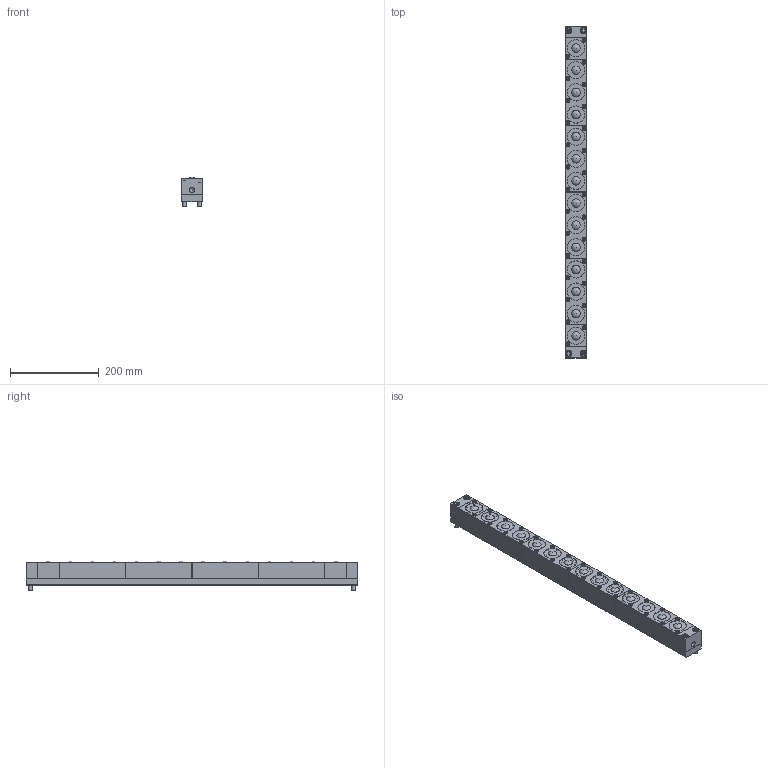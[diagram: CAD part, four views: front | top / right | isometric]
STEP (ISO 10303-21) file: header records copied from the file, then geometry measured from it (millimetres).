
FILE_DESCRIPTION(/* description */ (''),/* implementation_level */ '2;1');
FILE_NAME(/* name */ 'Z:\34-Tei\01-web 3Dデータ\41-ISR-50S型\ISR-50S-750-A.stp',/* time_stamp */ '2015-01-16T09:33:35+09:00',/* author */ ('yamaki'),/* organization */ (''),/* preprocessor_version */ 'ST-DEVELOPER v15.6',/* originating_system */ 'Autodesk Inventor 2015',/* authorisation */ '');
FILE_SCHEMA (('AUTOMOTIVE_DESIGN { 1 0 10303 214 3 1 1 }'));
Length unit declared in the file: millimetre
Products named in the file (6): 4200AT-01-750; 4200AT-02; 六角穴付きボルト-M8x55; 4200AT-00; 4200AT-03; ISR-50S
Bounding box: 49.5 x 750 x 67 mm (x, y, z)
Volume: 1823565 mm3; surface area: 430128.2 mm2
Topology: 23 solids, 23 shells, 716 faces, 1487 edges, 954 vertices
Faces by surface type: plane 467, cylinder 139, cone 62, torus 34, sphere 14
Full cylindrical faces by diameter (mm): 8 x2, 8.5 x28, 9 x2, 9.5 x28, 10.5 x1, 13 x4, 14.5 x4, 31.7 x14, 38.5 x14, 39 x14, 42 x28
Entity records: 6054 total; most frequent: CARTESIAN_POINT 1083, DIRECTION 976, ORIENTED_EDGE 834, EDGE_CURVE 417, AXIS2_PLACEMENT_3D 354, EDGE_LOOP 336, VERTEX_POINT 299, LINE 268
